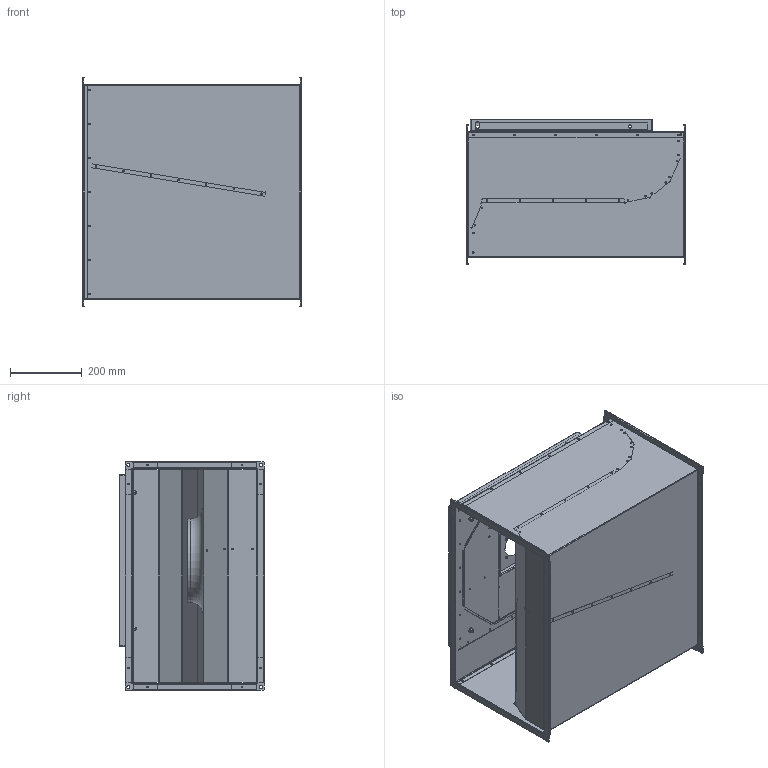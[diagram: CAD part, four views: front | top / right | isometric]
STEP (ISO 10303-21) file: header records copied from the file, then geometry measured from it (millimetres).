
FILE_DESCRIPTION (( 'STEP AP203' ), '1' );
FILE_NAME ('131357-00_KVR06035EC30.STEP', '2015-05-11T06:25:00', ( '' ), ( '' ), 'SwSTEP 2.0', 'SolidWorks 2012', '' );
FILE_SCHEMA (( 'CONFIG_CONTROL_DESIGN' ));
Length unit declared in the file: millimetre
Products named in the file (1): 131357-00_KVR06035EC30
Bounding box: 610 x 403.2 x 638.4 mm (x, y, z)
Surface area: 4078767.5 mm2 (no closed solid volume)
Topology: 0 solids, 85 shells, 858 faces, 2938 edges, 2104 vertices
Faces by surface type: cylinder 552, plane 288, torus 8, bspline 6, cone 4
Entity records: 33674 total; most frequent: CARTESIAN_POINT 7055, DIRECTION 5871, ORIENTED_EDGE 4622, EDGE_CURVE 2938, AXIS2_PLACEMENT_3D 2176, VERTEX_POINT 2104, VECTOR 1519, LINE 1519
